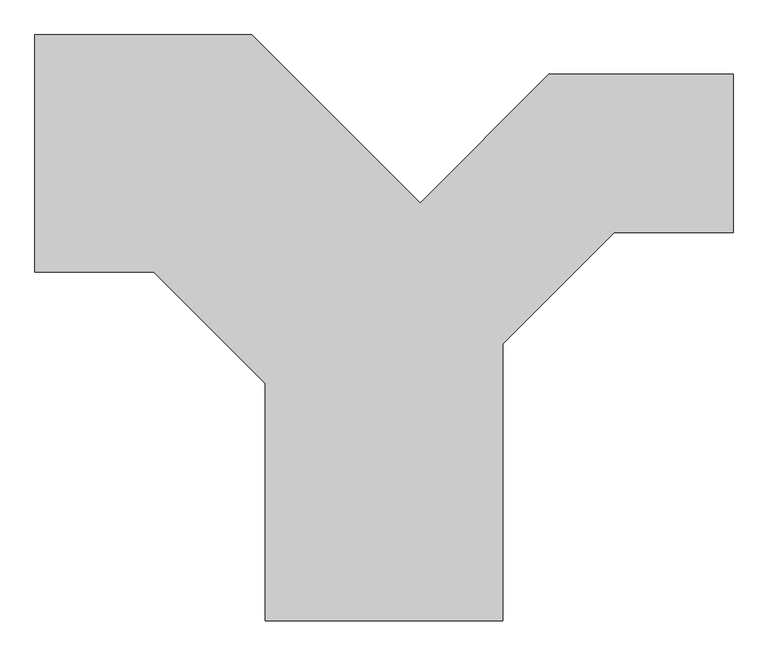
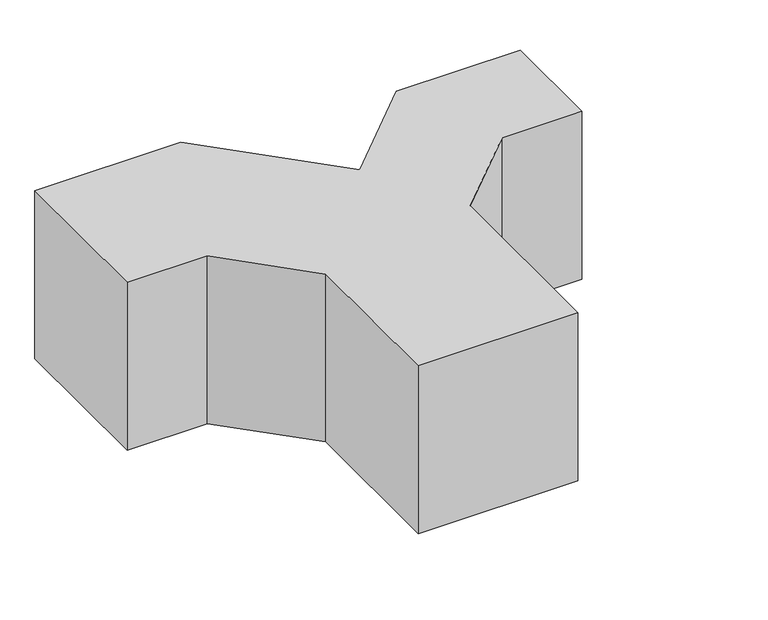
"""IFC4 building model written with IfcOpenShell, lengths in millimetres: duct fitting geometry, 2017_Te_Climaver_Te-Rectangular-Ramificación-Doble : Te_Ramificación-Doble-Pantalón_Climaver."""

from ifc_helpers import new_model, si_unit, frame, origin, place, context, project, spatial, polyline, outline, extrude, source, transform, mapped, element, save


def duct_fitting_d1819b23(model_context):
    return source(origin(), model_context, "Body", "SweptSolid", [
        extrude(outline(polyline([(225.0, -887.1320344), (-225.0, -887.1320344), (-225.0, -437.1320344), (-437.1320344, -225.0), (-662.1320344, -225.0), (-662.1320344, 225.0), (-250.7359313, 225.0), (68.5660172, -94.3019485), (312.8679656, 150.0), (662.1320344, 150.0), (662.1320344, -150.0), (437.1320344, -150.0), (225.0, -362.1320344), (225.0, -887.1320344)])), frame((0.0, 0.0, -250.0), z_axis=(0.0, 0.0, 1.0), x_axis=(1.0, 0.0, 0.0)), (0.0, 0.0, 1.0), 500.0),
    ])


if __name__ == "__main__":
    model = new_model("IFC4")
    model_context = context("Model", 3, world=origin())
    ifc_project = project(units=[si_unit("LENGTHUNIT", "METRE", prefix="MILLI")], contexts=[model_context])
    site = spatial("IfcSite", under=ifc_project)
    building = spatial("IfcBuilding", under=site)
    placement = place(None, origin())
    duct_fitting_shape = duct_fitting_d1819b23(model_context)
    element("IfcDuctFitting", 1, ObjectType="2017_Te_Climaver_Te-Rectangular-Ramificación-Doble : Te_Ramificación-Doble-Pantalón_Climaver", at=placement, inside=building, context=model_context, shape_type="MappedRepresentation", body=[
        mapped(duct_fitting_shape, transform((0.0, 0.0, 0.0), x_axis=(1.0, 0.0, 0.0), y_axis=(0.0, 1.0, 0.0), z_axis=(0.0, 0.0, 1.0))),
    ])
    save(model, "model.ifc")
